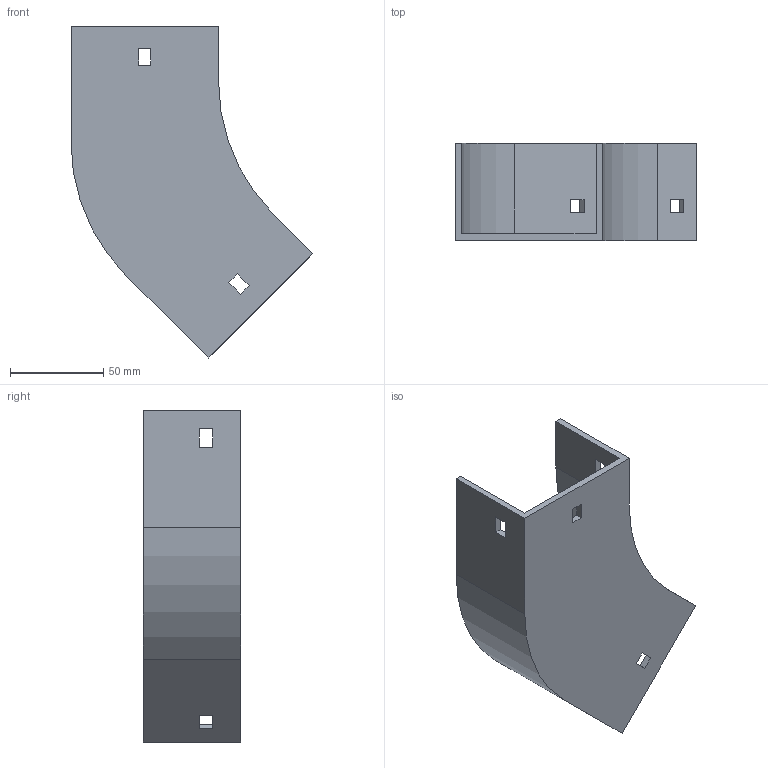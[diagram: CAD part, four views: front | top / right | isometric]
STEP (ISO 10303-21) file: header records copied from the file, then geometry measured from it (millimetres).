
FILE_DESCRIPTION (( 'STEP AP214' ), '1' );
FILE_NAME ('11F1B075.step', '2025-02-21T12:55:24', ( '' ), ( '' ), 'SwSTEP 2.0', 'SolidWorks 2023', '' );
FILE_SCHEMA (( 'AUTOMOTIVE_DESIGN' ));
Length unit declared in the file: millimetre
Products named in the file (1): 11F1B075
Bounding box: 129.5 x 52 x 177.79 mm (x, y, z)
Volume: 105298.1 mm3; surface area: 63294.2 mm2
Topology: 1 solids, 1 shells, 42 faces, 120 edges, 80 vertices
Faces by surface type: plane 38, cylinder 4
Entity records: 1399 total; most frequent: CARTESIAN_POINT 243, ORIENTED_EDGE 240, DIRECTION 214, EDGE_CURVE 120, LINE 112, VECTOR 112, VERTEX_POINT 80, EDGE_LOOP 54
